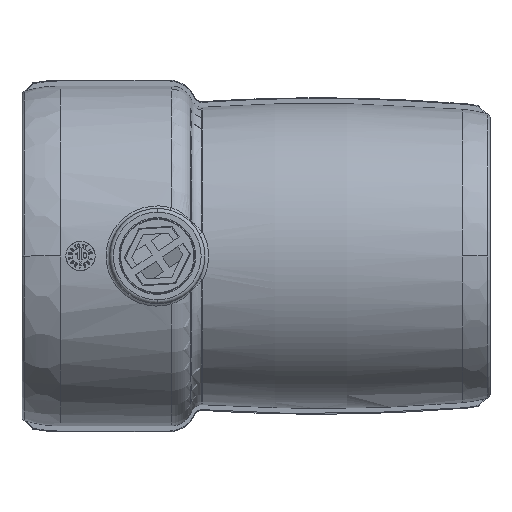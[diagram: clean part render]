
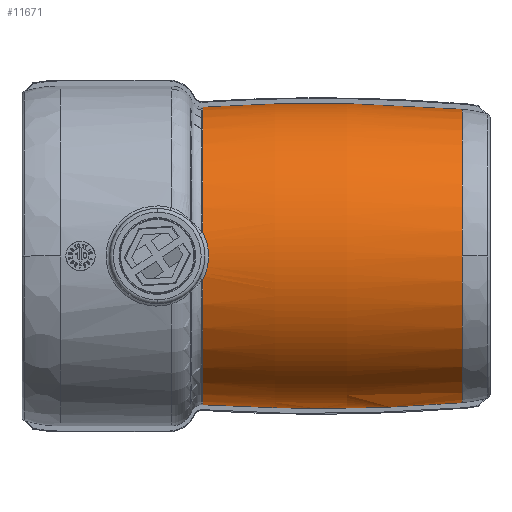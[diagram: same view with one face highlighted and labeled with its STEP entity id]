
A CAD part, front view. The second image highlights one B-rep face of the part: STEP entity #11671.
In plain terms, the highlighted toroidal (fillet/blend) face has major radius 438.083 mm and minor radius 479.833 mm.
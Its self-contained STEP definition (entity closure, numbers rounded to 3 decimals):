
#69 = VERTEX_POINT ( 'NONE', #13344 ) ;
#79 = VERTEX_POINT ( 'NONE', #13411 ) ;
#84 = VERTEX_POINT ( 'NONE', #13409 ) ;
#93 = EDGE_CURVE ( 'NONE', #69, #95, #13494, .T. ) ;
#95 = VERTEX_POINT ( 'NONE', #13466 ) ;
#108 = EDGE_CURVE ( 'NONE', #84, #79, #13550, .T. ) ;
#4988 = EDGE_CURVE ( 'NONE', #4993, #5005, #15491, .T. ) ;
#4993 = VERTEX_POINT ( 'NONE', #15550 ) ;
#5005 = VERTEX_POINT ( 'NONE', #15588 ) ;
#5098 = EDGE_CURVE ( 'NONE', #5005, #84, #16278, .T. ) ;
#10931 = EDGE_CURVE ( 'NONE', #95, #10958, #27140, .T. ) ;
#10958 = VERTEX_POINT ( 'NONE', #26645 ) ;
#11380 = EDGE_CURVE ( 'NONE', #10958, #4993, #27926, .T. ) ;
#11565 = EDGE_CURVE ( 'NONE', #79, #69, #28033, .T. ) ;
#11671 = ADVANCED_FACE ( 'NONE', ( #28269 ), #28262, .T. ) ;
#11673 = ORIENTED_EDGE ( 'NONE', *, *, #108, .T. ) ;
#11675 = ORIENTED_EDGE ( 'NONE', *, *, #5098, .T. ) ;
#11678 = ORIENTED_EDGE ( 'NONE', *, *, #11565, .T. ) ;
#11687 = EDGE_LOOP ( 'NONE', ( #11690, #11694, #11675, #11673, #11678, #11701, #11752 ) ) ;
#11690 = ORIENTED_EDGE ( 'NONE', *, *, #11380, .T. ) ;
#11694 = ORIENTED_EDGE ( 'NONE', *, *, #4988, .T. ) ;
#11701 = ORIENTED_EDGE ( 'NONE', *, *, #93, .T. ) ;
#11752 = ORIENTED_EDGE ( 'NONE', *, *, #10931, .T. ) ;
#13344 = CARTESIAN_POINT ( 'NONE',  ( -31.602, -40.191, -6.468 ) ) ;
#13409 = CARTESIAN_POINT ( 'NONE',  ( -31.602, -1.25, 40.689 ) ) ;
#13411 = CARTESIAN_POINT ( 'NONE',  ( -31.602, -40.191, 6.468 ) ) ;
#13466 = CARTESIAN_POINT ( 'NONE',  ( -31.602, -1.25, -40.689 ) ) ;
#13468 = DIRECTION ( 'NONE',  ( 0., 1., 0. ) ) ;
#13470 = DIRECTION ( 'NONE',  ( 1., 0., 0. ) ) ;
#13472 = CARTESIAN_POINT ( 'NONE',  ( -31.602, 0., 0. ) ) ;
#13474 = AXIS2_PLACEMENT_3D ( 'NONE', #13472, #13470, #13468 ) ;
#13494 = CIRCLE ( 'NONE', #13474, 40.708 ) ;
#13529 = DIRECTION ( 'NONE',  ( 0., 1., 0. ) ) ;
#13531 = DIRECTION ( 'NONE',  ( 1., 0., 0. ) ) ;
#13532 = CARTESIAN_POINT ( 'NONE',  ( -31.602, 0., 0. ) ) ;
#13534 = AXIS2_PLACEMENT_3D ( 'NONE', #13532, #13531, #13529 ) ;
#13550 = CIRCLE ( 'NONE', #13534, 40.708 ) ;
#15491 = CIRCLE ( 'NONE', #15549, 40.132 ) ;
#15546 = DIRECTION ( 'NONE',  ( 0., 0., -1. ) ) ;
#15547 = DIRECTION ( 'NONE',  ( -1., 0., 0. ) ) ;
#15548 = CARTESIAN_POINT ( 'NONE',  ( 39.372, 0., 0. ) ) ;
#15549 = AXIS2_PLACEMENT_3D ( 'NONE', #15548, #15547, #15546 ) ;
#15550 = CARTESIAN_POINT ( 'NONE',  ( 39.372, -40.132, 0. ) ) ;
#15588 = CARTESIAN_POINT ( 'NONE',  ( 39.372, -1.25, 40.113 ) ) ;
#16265 = CARTESIAN_POINT ( 'NONE',  ( -31.602, -1.25, 40.689 ) ) ;
#16266 = CARTESIAN_POINT ( 'NONE',  ( -25.671, -1.25, 41.081 ) ) ;
#16267 = CARTESIAN_POINT ( 'NONE',  ( -19.731, -1.25, 41.362 ) ) ;
#16268 = CARTESIAN_POINT ( 'NONE',  ( -10.808, -1.25, 41.619 ) ) ;
#16269 = CARTESIAN_POINT ( 'NONE',  ( -6.343, -1.25, 41.706 ) ) ;
#16270 = CARTESIAN_POINT ( 'NONE',  ( -1.129, -1.25, 41.734 ) ) ;
#16271 = CARTESIAN_POINT ( 'NONE',  ( 1.107, -1.25, 41.731 ) ) ;
#16272 = CARTESIAN_POINT ( 'NONE',  ( 2.598, -1.25, 41.725 ) ) ;
#16273 = CARTESIAN_POINT ( 'NONE',  ( 3.346, -1.25, 41.72 ) ) ;
#16274 = CARTESIAN_POINT ( 'NONE',  ( 15.887, -1.25, 41.613 ) ) ;
#16275 = CARTESIAN_POINT ( 'NONE',  ( 27.65, -1.25, 41.078 ) ) ;
#16276 = CARTESIAN_POINT ( 'NONE',  ( 39.372, -1.25, 40.113 ) ) ;
#16278 = B_SPLINE_CURVE_WITH_KNOTS ( 'NONE', 3,
 ( #16276, #16275, #16274, #16273, #16272, #16271, #16270, #16269, #16268, #16267, #16266, #16265 ),
 .UNSPECIFIED., .F., .F.,
 ( 4, 2, 2, 1, 1, 2, 4 ),
 ( 0.764, 0.799, 0.802, 0.804, 0.808, 0.817, 0.835 ),
 .UNSPECIFIED. ) ;
#26645 = CARTESIAN_POINT ( 'NONE',  ( 39.372, -1.25, -40.113 ) ) ;
#27123 = CARTESIAN_POINT ( 'NONE',  ( 39.372, -1.25, -40.113 ) ) ;
#27124 = CARTESIAN_POINT ( 'NONE',  ( 27.53, -1.25, -41.088 ) ) ;
#27125 = CARTESIAN_POINT ( 'NONE',  ( 15.646, -1.25, -41.624 ) ) ;
#27126 = CARTESIAN_POINT ( 'NONE',  ( 3.347, -1.25, -41.72 ) ) ;
#27127 = CARTESIAN_POINT ( 'NONE',  ( 2.98, -1.25, -41.722 ) ) ;
#27128 = CARTESIAN_POINT ( 'NONE',  ( 2.242, -1.25, -41.726 ) ) ;
#27129 = CARTESIAN_POINT ( 'NONE',  ( 1.134, -1.25, -41.731 ) ) ;
#27130 = CARTESIAN_POINT ( 'NONE',  ( -1.448, -1.25, -41.733 ) ) ;
#27131 = CARTESIAN_POINT ( 'NONE',  ( -3.66, -1.25, -41.72 ) ) ;
#27132 = CARTESIAN_POINT ( 'NONE',  ( -8.082, -1.25, -41.672 ) ) ;
#27133 = CARTESIAN_POINT ( 'NONE',  ( -11.028, -1.25, -41.614 ) ) ;
#27134 = CARTESIAN_POINT ( 'NONE',  ( -19.858, -1.25, -41.356 ) ) ;
#27135 = CARTESIAN_POINT ( 'NONE',  ( -25.735, -1.25, -41.076 ) ) ;
#27136 = CARTESIAN_POINT ( 'NONE',  ( -31.602, -1.25, -40.689 ) ) ;
#27140 = B_SPLINE_CURVE_WITH_KNOTS ( 'NONE', 3,
 ( #27136, #27135, #27134, #27133, #27132, #27131, #27130, #27129, #27128, #27127, #27126, #27125, #27124, #27123 ),
 .UNSPECIFIED., .F., .F.,
 ( 4, 2, 2, 1, 1, 2, 2, 4 ),
 ( 0.765, 0.783, 0.792, 0.796, 0.798, 0.799, 0.8, 0.836 ),
 .UNSPECIFIED. ) ;
#27457 = CARTESIAN_POINT ( 'NONE',  ( -31.06, -40.386, -5.482 ) ) ;
#27459 = CARTESIAN_POINT ( 'NONE',  ( -30.648, -40.542, -4.446 ) ) ;
#27517 = CARTESIAN_POINT ( 'NONE',  ( -31.602, -40.191, -6.468 ) ) ;
#27922 = DIRECTION ( 'NONE',  ( 0., 0., -1. ) ) ;
#27923 = DIRECTION ( 'NONE',  ( -1., 0., 0. ) ) ;
#27924 = CARTESIAN_POINT ( 'NONE',  ( 39.372, 0., 0. ) ) ;
#27925 = AXIS2_PLACEMENT_3D ( 'NONE', #27924, #27923, #27922 ) ;
#27926 = CIRCLE ( 'NONE', #27925, 40.132 ) ;
#28033 = B_SPLINE_CURVE_WITH_KNOTS ( 'NONE', 3,
 ( #28156, #28155, #28154, #28116, #28115, #28114, #28113, #28112, #28111, #28110, #28109, #28108, #28107, #27459, #27457, #27517 ),
 .UNSPECIFIED., .F., .F.,
 ( 4, 2, 2, 2, 2, 2, 2, 4 ),
 ( 0., 0.003, 0.005, 0.007, 0.008, 0.009, 0.01, 0.014 ),
 .UNSPECIFIED. ) ;
#28107 = CARTESIAN_POINT ( 'NONE',  ( -30.296, -40.676, -3.089 ) ) ;
#28108 = CARTESIAN_POINT ( 'NONE',  ( -30.234, -40.7, -2.814 ) ) ;
#28109 = CARTESIAN_POINT ( 'NONE',  ( -30.127, -40.742, -2.258 ) ) ;
#28110 = CARTESIAN_POINT ( 'NONE',  ( -30.081, -40.759, -1.976 ) ) ;
#28111 = CARTESIAN_POINT ( 'NONE',  ( -29.973, -40.801, -1.13 ) ) ;
#28112 = CARTESIAN_POINT ( 'NONE',  ( -29.938, -40.815, -0.566 ) ) ;
#28113 = CARTESIAN_POINT ( 'NONE',  ( -29.937, -40.815, 0.56 ) ) ;
#28114 = CARTESIAN_POINT ( 'NONE',  ( -29.973, -40.801, 1.122 ) ) ;
#28115 = CARTESIAN_POINT ( 'NONE',  ( -30.115, -40.746, 2.246 ) ) ;
#28116 = CARTESIAN_POINT ( 'NONE',  ( -30.224, -40.704, 2.808 ) ) ;
#28154 = CARTESIAN_POINT ( 'NONE',  ( -30.647, -40.542, 4.444 ) ) ;
#28155 = CARTESIAN_POINT ( 'NONE',  ( -31.06, -40.386, 5.482 ) ) ;
#28156 = CARTESIAN_POINT ( 'NONE',  ( -31.602, -40.191, 6.468 ) ) ;
#28253 = DIRECTION ( 'NONE',  ( 0., 0., 1. ) ) ;
#28254 = DIRECTION ( 'NONE',  ( -1., 0., 0. ) ) ;
#28255 = CARTESIAN_POINT ( 'NONE',  ( 0., 0., 0. ) ) ;
#28262 = TOROIDAL_SURFACE ( 'NONE', #28271, -438.083, 479.833 ) ;
#28269 = FACE_OUTER_BOUND ( 'NONE', #11687, .T. ) ;
#28271 = AXIS2_PLACEMENT_3D ( 'NONE', #28255, #28254, #28253 ) ;
